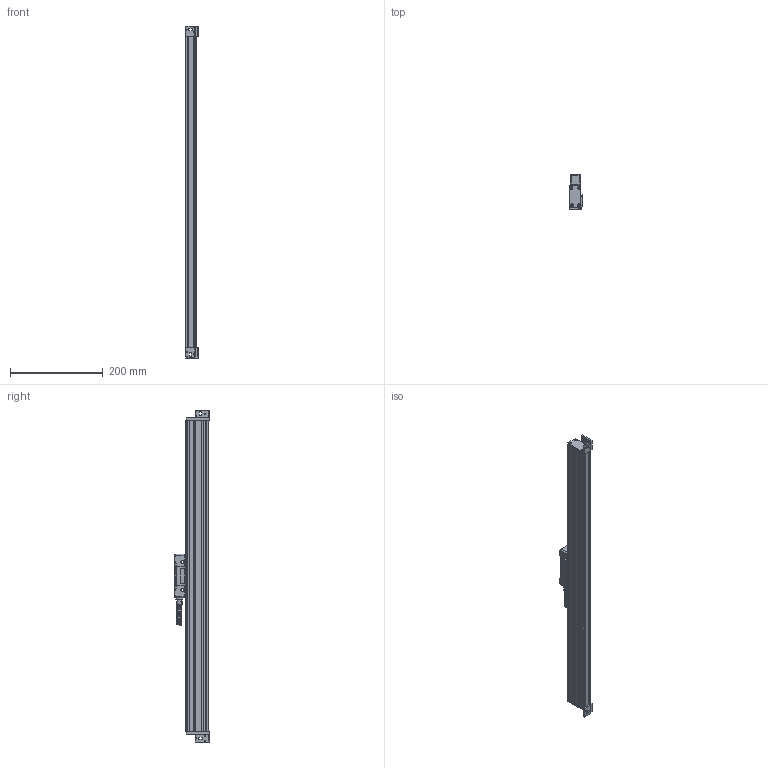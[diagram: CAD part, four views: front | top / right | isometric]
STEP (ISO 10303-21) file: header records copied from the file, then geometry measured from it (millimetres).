
FILE_DESCRIPTION (( 'STEP AP214' ), '1' );
FILE_NAME ('MLC310x0550.STEP', '2021-05-08T11:50:23', ( '' ), ( '' ), 'SwSTEP 2.0', 'SolidWorks 2014', '' );
FILE_SCHEMA (( 'AUTOMOTIVE_DESIGN' ));
Length unit declared in the file: millimetre
Products named in the file (1): MLC310x0550
Bounding box: 27 x 75.15 x 714 mm (x, y, z)
Surface area: 133125.7 mm2 (no closed solid volume)
Topology: 0 solids, 23 shells, 425 faces, 1399 edges, 983 vertices
Faces by surface type: plane 175, cylinder 143, cone 75, bspline 26, torus 6
Entity records: 30226 total; most frequent: CARTESIAN_POINT 13663, DIRECTION 2430, ORIENTED_EDGE 2215, EDGE_CURVE 1393, VERTEX_POINT 983, AXIS2_PLACEMENT_3D 840, LINE 750, VECTOR 750
